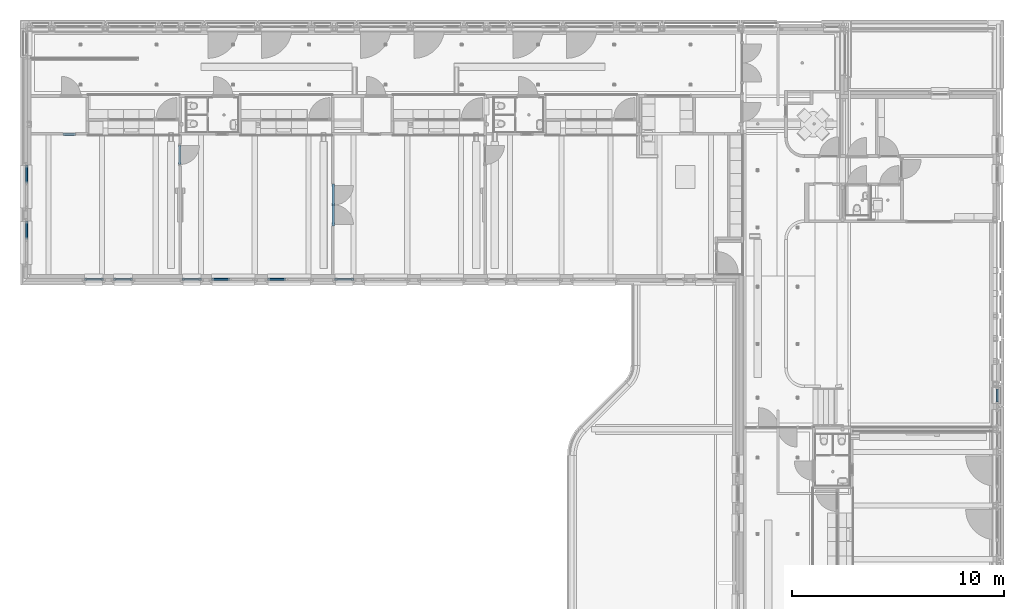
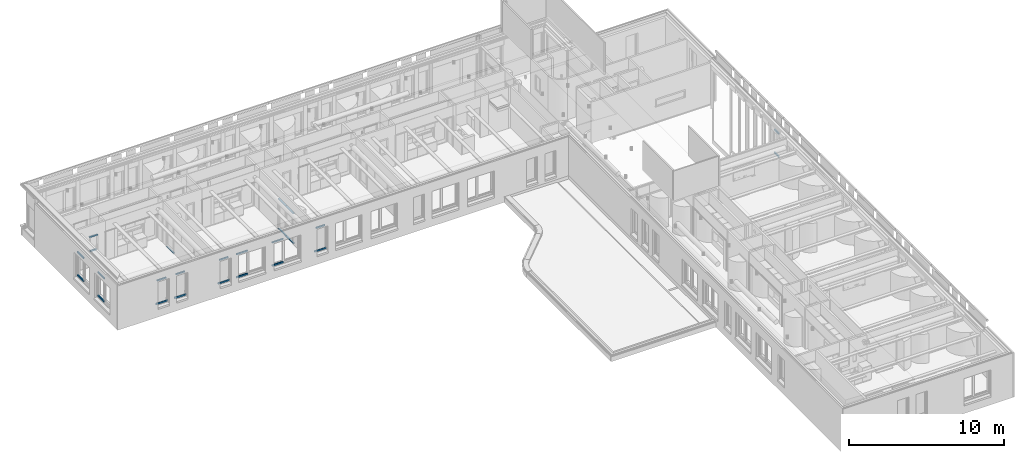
# One storey, part 27 of 128: 25 members, 12 elements without a shape of their own.
"""IFC2X3 building model written with IfcOpenShell, lengths in millimetres."""

from ifc_helpers import new_model, entity, si_unit, converted_unit, derived_unit, direction, frame, frame_2d, origin, origin_2d_with_axis, place, context, subcontext, project, spatial, rectangle, extrude, source, transform, mapped, material, type_object, type_shapes, element, aggregate, save


model = new_model("IFC2X3")

# Units and contexts
model_context = context("Model", 3, precision=0.01, world=origin(), true_north=direction((6.123031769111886e-17, 1.0)))
body_context = subcontext(model_context, "Body", "Model", "MODEL_VIEW")
ifc_project = project(units=[si_unit("LENGTHUNIT", "METRE", prefix="MILLI"), si_unit("AREAUNIT", "SQUARE_METRE"), si_unit("VOLUMEUNIT", "CUBIC_METRE"), converted_unit("PLANEANGLEUNIT", "DEGREE", entity("IfcRatioMeasure", 0.017453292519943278), si_unit("PLANEANGLEUNIT", "RADIAN"), dimensions=[0, 0, 0, 0, 0, 0, 0]), si_unit("MASSUNIT", "GRAM", prefix="KILO"), derived_unit("MASSDENSITYUNIT", [(si_unit("MASSUNIT", "GRAM", prefix="KILO"), 1), (si_unit("LENGTHUNIT", "METRE"), -3)]), derived_unit("IONCONCENTRATIONUNIT", [(si_unit("MASSUNIT", "GRAM", prefix="KILO"), 1), (si_unit("LENGTHUNIT", "METRE"), -3)]), derived_unit("MOMENTOFINERTIAUNIT", [(si_unit("LENGTHUNIT", "METRE"), 4)]), si_unit("TIMEUNIT", "SECOND"), si_unit("FREQUENCYUNIT", "HERTZ"), si_unit("THERMODYNAMICTEMPERATUREUNIT", "DEGREE_CELSIUS"), derived_unit("THERMALTRANSMITTANCEUNIT", [(si_unit("MASSUNIT", "GRAM", prefix="KILO"), 1), (si_unit("THERMODYNAMICTEMPERATUREUNIT", "KELVIN"), -1), (si_unit("TIMEUNIT", "SECOND"), -3)]), derived_unit("THERMALCONDUCTANCEUNIT", [(si_unit("MASSUNIT", "GRAM", prefix="KILO"), 1), (si_unit("THERMODYNAMICTEMPERATUREUNIT", "KELVIN"), -1), (si_unit("TIMEUNIT", "SECOND"), -3), (si_unit("LENGTHUNIT", "METRE"), 1)]), derived_unit("VOLUMETRICFLOWRATEUNIT", [(si_unit("LENGTHUNIT", "METRE"), 3), (si_unit("TIMEUNIT", "SECOND"), -1)]), derived_unit("MASSFLOWRATEUNIT", [(si_unit("MASSUNIT", "GRAM", prefix="KILO"), 1), (si_unit("TIMEUNIT", "SECOND"), -1)]), derived_unit("ROTATIONALFREQUENCYUNIT", [(si_unit("TIMEUNIT", "SECOND"), -1)]), si_unit("ELECTRICCURRENTUNIT", "AMPERE"), si_unit("ELECTRICVOLTAGEUNIT", "VOLT"), si_unit("POWERUNIT", "WATT"), si_unit("FORCEUNIT", "NEWTON", prefix="KILO"), si_unit("ILLUMINANCEUNIT", "LUX"), si_unit("LUMINOUSFLUXUNIT", "LUMEN"), si_unit("LUMINOUSINTENSITYUNIT", "CANDELA"), derived_unit("USERDEFINED", [(si_unit("MASSUNIT", "GRAM", prefix="KILO"), -1), (si_unit("LENGTHUNIT", "METRE"), -2), (si_unit("TIMEUNIT", "SECOND"), 3), (si_unit("LUMINOUSFLUXUNIT", "LUMEN"), 1)]), derived_unit("USERDEFINED", [(si_unit("MASSUNIT", "GRAM", prefix="KILO"), 1), (si_unit("TIMEUNIT", "SECOND"), -3), (si_unit("LENGTHUNIT", "METRE"), 3), (si_unit("ELECTRICCURRENTUNIT", "AMPERE"), -2)]), derived_unit("SOUNDPOWERUNIT", [(si_unit("MASSUNIT", "GRAM", prefix="KILO"), 1), (si_unit("TIMEUNIT", "SECOND"), -3), (si_unit("LENGTHUNIT", "METRE"), 2)]), derived_unit("SOUNDPRESSUREUNIT", [(si_unit("MASSUNIT", "GRAM", prefix="KILO"), 1), (si_unit("LENGTHUNIT", "METRE"), -1), (si_unit("TIMEUNIT", "SECOND"), -2)]), derived_unit("LINEARVELOCITYUNIT", [(si_unit("LENGTHUNIT", "METRE"), 1), (si_unit("TIMEUNIT", "SECOND"), -1)]), si_unit("PRESSUREUNIT", "PASCAL"), derived_unit("USERDEFINED", [(si_unit("MASSUNIT", "GRAM", prefix="KILO"), 1), (si_unit("LENGTHUNIT", "METRE"), -2), (si_unit("TIMEUNIT", "SECOND"), -2)]), derived_unit("LINEARFORCEUNIT", [(si_unit("MASSUNIT", "GRAM", prefix="KILO"), 1), (si_unit("TIMEUNIT", "SECOND"), -2)]), derived_unit("PLANARFORCEUNIT", [(si_unit("MASSUNIT", "GRAM", prefix="KILO"), 1), (si_unit("LENGTHUNIT", "METRE"), -1), (si_unit("TIMEUNIT", "SECOND"), -2)]), derived_unit("SPECIFICHEATCAPACITYUNIT", [(si_unit("THERMODYNAMICTEMPERATUREUNIT", "KELVIN"), -1), (si_unit("LENGTHUNIT", "METRE"), 2), (si_unit("TIMEUNIT", "SECOND"), -2)]), derived_unit("HEATINGVALUEUNIT", [(si_unit("LENGTHUNIT", "METRE"), 2), (si_unit("TIMEUNIT", "SECOND"), -2)]), derived_unit("VAPORPERMEABILITYUNIT", [(si_unit("LENGTHUNIT", "METRE"), -1), (si_unit("TIMEUNIT", "SECOND"), 1)]), derived_unit("DYNAMICVISCOSITYUNIT", [(si_unit("MASSUNIT", "GRAM", prefix="KILO"), 1), (si_unit("TIMEUNIT", "SECOND"), -1), (si_unit("LENGTHUNIT", "METRE"), -1)]), derived_unit("THERMALEXPANSIONCOEFFICIENTUNIT", [(si_unit("THERMODYNAMICTEMPERATUREUNIT", "KELVIN"), -1)]), derived_unit("MODULUSOFELASTICITYUNIT", [(si_unit("MASSUNIT", "GRAM", prefix="KILO"), 1), (si_unit("LENGTHUNIT", "METRE"), -1), (si_unit("TIMEUNIT", "SECOND"), -2)]), derived_unit("ISOTHERMALMOISTURECAPACITYUNIT", [(si_unit("LENGTHUNIT", "METRE"), 3), (si_unit("MASSUNIT", "GRAM", prefix="KILO"), -1)]), derived_unit("MOISTUREDIFFUSIVITYUNIT", [(si_unit("TIMEUNIT", "SECOND"), -1), (si_unit("LENGTHUNIT", "METRE"), 2)])], contexts=[model_context])

# Site, building, storey
site_placement = place(None, frame((0.0, 300.0, 0.0)))
site = spatial("IfcSite", under=ifc_project, at=site_placement, Name="<Kadastrale nummers>", CompositionType="ELEMENT")
building_placement = place(site_placement, origin())
building = spatial("IfcBuilding", under=site, at=building_placement, CompositionType="ELEMENT")
storey_placement = place(building_placement, frame((0.0, 0.0, 3560.0000331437)))
storey = spatial("IfcBuildingStorey", under=building, at=storey_placement, Name="01 eerste verdieping", CompositionType="ELEMENT", Elevation=3560.0000331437)

# Curtain wall, member
curtain_wall_type_1 = type_object("IfcCurtainWallType", Name="Curtain Wall:Merk H16", PredefinedType="NOTDEFINED")
curtain_wall_1_placement = place(storey_placement, frame((0.0, 0.0, -3560.0000331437)))
curtain_wall_1 = element("IfcCurtainWall", 1, at=curtain_wall_1_placement, inside=storey, type_object=curtain_wall_type_1, Name="Curtain Wall:Merk H16", ObjectType="Curtain Wall:Merk H16")
ifc_material_1 = material(Name="ISR_Kunststof_grijs")
member_type_1 = type_object("IfcMemberType", Name="Rectangular Mullion:31_CWM_020x114", PredefinedType="MULLION", material=ifc_material_1)
shared_shape_1 = source(origin(), body_context, "Body", "SweptSolid", [
    extrude(rectangle(XDim=113.99999999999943, YDim=20.0, at=origin_2d_with_axis()), frame((-10.0, 57.0, -900.0), z_axis=(0.0, 0.0, 1.0), x_axis=(0.0, -1.0, 0.0)), (0.0, 0.0, 1.0), 899.999999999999),
])
type_shapes(member_type_1, [shared_shape_1])
member_1_placement = place(curtain_wall_1_placement, frame((10060.0, 43408.0, 3650.000035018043), z_axis=(0.0, -1.0, 0.0), x_axis=(0.0, 0.0, -1.0)))
member_1 = element("IfcMember", 2, at=member_1_placement, type_object=member_type_1, material=ifc_material_1, Name="Rectangular Mullion:31_CWM_020x114", ObjectType="Rectangular Mullion:31_CWM_020x114", context=body_context, shape_type="MappedRepresentation", body=[
    mapped(shared_shape_1, transform((0.0, 0.0, 0.0), scale=1.0)),
])
aggregate(curtain_wall_1, [member_1])

# Curtain wall, members
curtain_wall_type_2 = type_object("IfcCurtainWallType", Name="Curtain Wall:Merk H07", PredefinedType="NOTDEFINED")
curtain_wall_2_placement = place(storey_placement, frame((0.0, 0.0, -3560.0000331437)))
curtain_wall_2 = element("IfcCurtainWall", 3, at=curtain_wall_2_placement, inside=storey, type_object=curtain_wall_type_2, Name="Curtain Wall:Merk H07", ObjectType="Curtain Wall:Merk H07")
ifc_material_2 = material(Name="ISR_HPL")
member_type_2 = type_object("IfcMemberType", Name="Rectangular Mullion:31_CWM_067x114", PredefinedType="MULLION", material=ifc_material_2)
shared_shape_2 = source(origin(), body_context, "Body", "SweptSolid", [
    extrude(rectangle(XDim=113.99999999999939, YDim=67.0, at=origin_2d_with_axis()), frame((-33.5, 57.0, -990.0), z_axis=(0.0, 0.0, 1.0), x_axis=(0.0, -1.0, 0.0)), (0.0, 0.0, 1.0), 989.9999999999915),
])
type_shapes(member_type_2, [shared_shape_2])
member_2_placement = place(curtain_wall_2_placement, frame((17306.0, 42485.0, 6040.0000331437), z_axis=(0.0, 1.0, 0.0), x_axis=(0.0, 0.0, 1.0)))
member_2 = element("IfcMember", 4, at=member_2_placement, type_object=member_type_2, material=ifc_material_2, Name="Rectangular Mullion:31_CWM_067x114", ObjectType="Rectangular Mullion:31_CWM_067x114", context=body_context, shape_type="MappedRepresentation", body=[
    mapped(shared_shape_2, transform((0.0, 0.0, 0.0), scale=1.0)),
])
member_type_3 = type_object("IfcMemberType", Name="Rectangular Mullion:31_CWM_020x114", PredefinedType="MULLION", material=ifc_material_1)
shared_shape_3 = source(origin(), body_context, "Body", "SweptSolid", [
    extrude(rectangle(XDim=113.99999999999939, YDim=20.0, at=origin_2d_with_axis()), frame((-10.0, 57.0, -990.0), z_axis=(0.0, 0.0, 1.0), x_axis=(0.0, -1.0, 0.0)), (0.0, 0.0, 1.0), 990.0000000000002),
])
type_shapes(member_type_3, [shared_shape_3])
member_3_placement = place(curtain_wall_2_placement, frame((17306.0, 40505.0, 3650.000035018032), z_axis=(0.0, -1.0, 0.0), x_axis=(0.0, 0.0, -1.0)))
member_3 = element("IfcMember", 5, at=member_3_placement, type_object=member_type_3, material=ifc_material_1, Name="Rectangular Mullion:31_CWM_020x114", ObjectType="Rectangular Mullion:31_CWM_020x114", context=body_context, shape_type="MappedRepresentation", body=[
    mapped(shared_shape_3, transform((0.0, 0.0, 0.0), scale=1.0)),
])
member_type_4 = type_object("IfcMemberType", Name="Rectangular Mullion:31_CWM_067x114", PredefinedType="MULLION", material=ifc_material_2)
shared_shape_4 = source(origin(), body_context, "Body", "SweptSolid", [
    extrude(rectangle(XDim=113.99999999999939, YDim=67.0, at=origin_2d_with_axis()), frame((-33.5, 57.0, -990.0), z_axis=(0.0, 0.0, 1.0), x_axis=(0.0, -1.0, 0.0)), (0.0, 0.0, 1.0), 989.9999999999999),
])
type_shapes(member_type_4, [shared_shape_4])
member_4_placement = place(curtain_wall_2_placement, frame((17306.0, 41495.0, 6040.0000331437), z_axis=(0.0, 1.0, 0.0), x_axis=(0.0, 0.0, 1.0)))
member_4 = element("IfcMember", 6, at=member_4_placement, type_object=member_type_4, material=ifc_material_2, Name="Rectangular Mullion:31_CWM_067x114", ObjectType="Rectangular Mullion:31_CWM_067x114", context=body_context, shape_type="MappedRepresentation", body=[
    mapped(shared_shape_4, transform((0.0, 0.0, 0.0), scale=1.0)),
])
member_type_5 = type_object("IfcMemberType", Name="Rectangular Mullion:31_CWM_020x114", PredefinedType="MULLION", material=ifc_material_1)
shared_shape_5 = source(origin(), body_context, "Body", "SweptSolid", [
    extrude(rectangle(XDim=113.99999999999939, YDim=20.0, at=origin_2d_with_axis()), frame((-10.0, 57.0, -990.0), z_axis=(0.0, 0.0, 1.0), x_axis=(0.0, -1.0, 0.0)), (0.0, 0.0, 1.0), 989.9999999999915),
])
type_shapes(member_type_5, [shared_shape_5])
member_5_placement = place(curtain_wall_2_placement, frame((17306.0, 41495.0, 3650.000035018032), z_axis=(0.0, -1.0, 0.0), x_axis=(0.0, 0.0, -1.0)))
member_5 = element("IfcMember", 7, at=member_5_placement, type_object=member_type_5, material=ifc_material_1, Name="Rectangular Mullion:31_CWM_020x114", ObjectType="Rectangular Mullion:31_CWM_020x114", context=body_context, shape_type="MappedRepresentation", body=[
    mapped(shared_shape_5, transform((0.0, 0.0, 0.0), scale=1.0)),
])
aggregate(curtain_wall_2, [member_2, member_3, member_4, member_5])

curtain_wall_type_3 = type_object("IfcCurtainWallType", Name="Curtain Wall:Merk H05", PredefinedType="NOTDEFINED")
curtain_wall_3_placement = place(storey_placement, frame((0.0, 0.0, -3560.0000331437)))
curtain_wall_3 = element("IfcCurtainWall", 8, at=curtain_wall_3_placement, inside=storey, type_object=curtain_wall_type_3, Name="Curtain Wall:Merk H05", ObjectType="Curtain Wall:Merk H05")
member_type_6 = type_object("IfcMemberType", Name="Rectangular Mullion:31_CWM_067x114", PredefinedType="MULLION", material=ifc_material_2)
shared_shape_6 = source(origin(), body_context, "Body", "SweptSolid", [
    extrude(rectangle(XDim=113.9999999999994, YDim=67.0, at=frame_2d((1.0658141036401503e-14, 0.0), x_axis=(1.0, 0.0))), frame((-33.5, -57.0, -600.0), z_axis=(0.0, 0.0, 1.0), x_axis=(0.0, -1.0, 0.0)), (0.0, 0.0, 1.0), 600.0000000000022),
])
type_shapes(member_type_6, [shared_shape_6])
member_6_placement = place(curtain_wall_3_placement, frame((4605.0, 44889.0, 6040.0000331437), z_axis=(-1.0, 0.0, 0.0), x_axis=(0.0, 0.0, 1.0)))
member_6 = element("IfcMember", 9, at=member_6_placement, type_object=member_type_6, material=ifc_material_2, Name="Rectangular Mullion:31_CWM_067x114", ObjectType="Rectangular Mullion:31_CWM_067x114", context=body_context, shape_type="MappedRepresentation", body=[
    mapped(shared_shape_6, transform((0.0, 0.0, 0.0), scale=1.0)),
])
member_type_7 = type_object("IfcMemberType", Name="Rectangular Mullion:31_CWM_067x114", PredefinedType="MULLION", material=ifc_material_2)
shared_shape_7 = source(origin(), body_context, "Body", "SweptSolid", [
    extrude(rectangle(XDim=113.9999999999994, YDim=67.0, at=frame_2d((1.0658141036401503e-14, 0.0), x_axis=(1.0, 0.0))), frame((-33.5, -57.0, -466.0), z_axis=(0.0, 0.0, 1.0), x_axis=(0.0, -1.0, 0.0)), (0.0, 0.0, 1.0), 466.0000000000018),
])
type_shapes(member_type_7, [shared_shape_7])
member_7_placement = place(curtain_wall_3_placement, frame((5138.0, 44889.0, 4850.0000331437), z_axis=(1.0, 0.0, 0.0), x_axis=(0.0, 0.0, -1.0)))
member_7 = element("IfcMember", 10, at=member_7_placement, type_object=member_type_7, material=ifc_material_2, Name="Rectangular Mullion:31_CWM_067x114", ObjectType="Rectangular Mullion:31_CWM_067x114", context=body_context, shape_type="MappedRepresentation", body=[
    mapped(shared_shape_7, transform((0.0, 0.0, 0.0), scale=1.0)),
])
aggregate(curtain_wall_3, [member_6, member_7])

curtain_wall_type_4 = type_object("IfcCurtainWallType", Name="Curtain Wall:K_29", PredefinedType="NOTDEFINED")
curtain_wall_4_placement = place(storey_placement, frame((0.0, 0.0, -3560.0000331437)))
curtain_wall_4 = element("IfcCurtainWall", 11, at=curtain_wall_4_placement, inside=storey, type_object=curtain_wall_type_4, Name="Curtain Wall:K_29", ObjectType="Curtain Wall:K_29")
ifc_material_3 = material(Name="ISR_Kunststof_RAL7006")
member_type_8 = type_object("IfcMemberType", Name="Rectangular Mullion:100x83 Gealan Kubus", PredefinedType="MULLION", material=ifc_material_3)
shared_shape_8 = source(origin(), body_context, "Body", "SweptSolid", [
    extrude(rectangle(XDim=83.0, YDim=100.0, at=origin_2d_with_axis()), frame((-50.0, 41.5, -590.0), z_axis=(0.0, 0.0, 1.0), x_axis=(0.0, -1.0, 0.0)), (0.0, 0.0, 1.0), 590.0000000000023),
])
type_shapes(member_type_8, [shared_shape_8])
member_8_placement = place(curtain_wall_4_placement, frame((48668.0, 32800.0, 6390.0), z_axis=(0.0, 1.0, 0.0), x_axis=(0.0, 0.0, 1.0)))
member_8 = element("IfcMember", 12, at=member_8_placement, type_object=member_type_8, material=ifc_material_3, Name="Rectangular Mullion:100x83 Gealan Kubus", ObjectType="Rectangular Mullion:100x83 Gealan Kubus", context=body_context, shape_type="MappedRepresentation", body=[
    mapped(shared_shape_8, transform((0.0, 0.0, 0.0), scale=1.0)),
])
member_type_9 = type_object("IfcMemberType", Name="Rectangular Mullion:120x83 Gealan Kubus", PredefinedType="MULLION", material=ifc_material_3)
shared_shape_9 = source(origin(), body_context, "Body", "SweptSolid", [
    extrude(rectangle(XDim=83.00000000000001, YDim=120.0, at=origin_2d_with_axis()), frame((-60.0, 41.50000000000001, -590.0), z_axis=(0.0, 0.0, 1.0), x_axis=(0.0, -1.0, 0.0)), (0.0, 0.0, 1.0), 590.0000000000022),
])
type_shapes(member_type_9, [shared_shape_9])
member_9_placement = place(curtain_wall_4_placement, frame((48668.0, 32210.0, 4460.000035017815), z_axis=(0.0, -1.0, 0.0), x_axis=(0.0, 0.0, -1.0)))
member_9 = element("IfcMember", 13, at=member_9_placement, type_object=member_type_9, material=ifc_material_3, Name="Rectangular Mullion:120x83 Gealan Kubus", ObjectType="Rectangular Mullion:120x83 Gealan Kubus", context=body_context, shape_type="MappedRepresentation", body=[
    mapped(shared_shape_9, transform((0.0, 0.0, 0.0), scale=1.0)),
])
aggregate(curtain_wall_4, [member_8, member_9])

# Curtain wall, member
curtain_wall_type_5 = type_object("IfcCurtainWallType", Name="Curtain Wall:K_24", PredefinedType="NOTDEFINED")
curtain_wall_5_placement = place(storey_placement, frame((0.0, 0.0, -3560.0000331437)))
curtain_wall_5 = element("IfcCurtainWall", 14, at=curtain_wall_5_placement, inside=storey, type_object=curtain_wall_type_5, Name="Curtain Wall:K_24", ObjectType="Curtain Wall:K_24")
member_type_10 = type_object("IfcMemberType", Name="Rectangular Mullion:120x83 Gealan Kubus", PredefinedType="MULLION", material=ifc_material_3)
shared_shape_10 = source(origin(), body_context, "Body", "SweptSolid", [
    extrude(rectangle(XDim=83.00000000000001, YDim=120.0, at=origin_2d_with_axis()), frame((-60.0, 41.50000000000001, -857.0), z_axis=(0.0, 0.0, 1.0), x_axis=(0.0, -1.0, 0.0)), (0.0, 0.0, 1.0), 857.0),
])
type_shapes(member_type_10, [shared_shape_10])
member_10_placement = place(curtain_wall_5_placement, frame((14270.0, 38031.998623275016, 4460.000035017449), z_axis=(-1.0, 0.0, 0.0), x_axis=(0.0, 0.0, -1.0)))
member_10 = element("IfcMember", 15, at=member_10_placement, type_object=member_type_10, material=ifc_material_3, Name="Rectangular Mullion:120x83 Gealan Kubus", ObjectType="Rectangular Mullion:120x83 Gealan Kubus", context=body_context, shape_type="MappedRepresentation", body=[
    mapped(shared_shape_10, transform((0.0, 0.0, 0.0), scale=1.0)),
])

curtain_wall_6_placement = place(storey_placement, frame((0.0, 0.0, -3560.0000331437)))
curtain_wall_6 = element("IfcCurtainWall", 16, at=curtain_wall_6_placement, inside=storey, type_object=curtain_wall_type_5, Name="Curtain Wall:K_24", ObjectType="Curtain Wall:K_24")
member_11_placement = place(curtain_wall_6_placement, frame((11620.0, 38031.99862327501, 4460.000035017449), z_axis=(-1.0, 0.0, 0.0), x_axis=(0.0, 0.0, -1.0)))
member_11 = element("IfcMember", 17, at=member_11_placement, type_object=member_type_10, material=ifc_material_3, Name="Rectangular Mullion:120x83 Gealan Kubus", ObjectType="Rectangular Mullion:120x83 Gealan Kubus", context=body_context, shape_type="MappedRepresentation", body=[
    mapped(shared_shape_10, transform((0.0, 0.0, 0.0), scale=1.0)),
])

curtain_wall_7_placement = place(storey_placement, frame((0.0, 0.0, -3560.0000331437)))
curtain_wall_7 = element("IfcCurtainWall", 18, at=curtain_wall_7_placement, inside=storey, type_object=curtain_wall_type_5, Name="Curtain Wall:K_24", ObjectType="Curtain Wall:K_24")
member_12_placement = place(curtain_wall_7_placement, frame((2931.9986232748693, 40725.0, 4460.000035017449), z_axis=(0.0, 1.0, 0.0), x_axis=(0.0, 0.0, -1.0)))
member_12 = element("IfcMember", 19, at=member_12_placement, type_object=member_type_10, material=ifc_material_3, Name="Rectangular Mullion:120x83 Gealan Kubus", ObjectType="Rectangular Mullion:120x83 Gealan Kubus", context=body_context, shape_type="MappedRepresentation", body=[
    mapped(shared_shape_10, transform((0.0, 0.0, 0.0), scale=1.0)),
])

curtain_wall_8_placement = place(storey_placement, frame((0.0, 0.0, -3560.0000331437)))
curtain_wall_8 = element("IfcCurtainWall", 20, at=curtain_wall_8_placement, inside=storey, type_object=curtain_wall_type_5, Name="Curtain Wall:K_24", ObjectType="Curtain Wall:K_24")
member_13_placement = place(curtain_wall_8_placement, frame((2931.9986232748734, 43375.0, 4460.000035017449), z_axis=(0.0, 1.0, 0.0), x_axis=(0.0, 0.0, -1.0)))
member_13 = element("IfcMember", 21, at=member_13_placement, type_object=member_type_10, material=ifc_material_3, Name="Rectangular Mullion:120x83 Gealan Kubus", ObjectType="Rectangular Mullion:120x83 Gealan Kubus", context=body_context, shape_type="MappedRepresentation", body=[
    mapped(shared_shape_10, transform((0.0, 0.0, 0.0), scale=1.0)),
])

# Member
member_type_11 = type_object("IfcMemberType", Name="Rectangular Mullion:100x83 Gealan Kubus", PredefinedType="MULLION", material=ifc_material_3)
shared_shape_11 = source(origin(), body_context, "Body", "SweptSolid", [
    extrude(rectangle(XDim=83.0, YDim=100.0, at=origin_2d_with_axis()), frame((-50.0, 41.5, -857.0), z_axis=(0.0, 0.0, 1.0), x_axis=(0.0, -1.0, 0.0)), (0.0, 0.0, 1.0), 857.0000000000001),
])
type_shapes(member_type_11, [shared_shape_11])
member_14_placement = place(curtain_wall_5_placement, frame((15127.0, 38031.998623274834, 6390.000035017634), z_axis=(1.0, 0.0, 0.0), x_axis=(0.0, 0.0, 1.0)))
member_14 = element("IfcMember", 22, at=member_14_placement, type_object=member_type_11, material=ifc_material_3, Name="Rectangular Mullion:100x83 Gealan Kubus", ObjectType="Rectangular Mullion:100x83 Gealan Kubus", context=body_context, shape_type="MappedRepresentation", body=[
    mapped(shared_shape_11, transform((0.0, 0.0, 0.0), scale=1.0)),
])

aggregate(curtain_wall_5, [member_10, member_14])

member_15_placement = place(curtain_wall_6_placement, frame((12477.0, 38031.99862327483, 6390.000035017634), z_axis=(1.0, 0.0, 0.0), x_axis=(0.0, 0.0, 1.0)))
member_15 = element("IfcMember", 23, at=member_15_placement, type_object=member_type_11, material=ifc_material_3, Name="Rectangular Mullion:100x83 Gealan Kubus", ObjectType="Rectangular Mullion:100x83 Gealan Kubus", context=body_context, shape_type="MappedRepresentation", body=[
    mapped(shared_shape_11, transform((0.0, 0.0, 0.0), scale=1.0)),
])

aggregate(curtain_wall_6, [member_11, member_15])

member_16_placement = place(curtain_wall_7_placement, frame((2931.998623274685, 39868.0, 6390.000035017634), z_axis=(0.0, -1.0, 0.0), x_axis=(0.0, 0.0, 1.0)))
member_16 = element("IfcMember", 24, at=member_16_placement, type_object=member_type_11, material=ifc_material_3, Name="Rectangular Mullion:100x83 Gealan Kubus", ObjectType="Rectangular Mullion:100x83 Gealan Kubus", context=body_context, shape_type="MappedRepresentation", body=[
    mapped(shared_shape_11, transform((0.0, 0.0, 0.0), scale=1.0)),
])

aggregate(curtain_wall_7, [member_12, member_16])

member_17_placement = place(curtain_wall_8_placement, frame((2931.998623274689, 42518.0, 6390.000035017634), z_axis=(0.0, -1.0, 0.0), x_axis=(0.0, 0.0, 1.0)))
member_17 = element("IfcMember", 25, at=member_17_placement, type_object=member_type_11, material=ifc_material_3, Name="Rectangular Mullion:100x83 Gealan Kubus", ObjectType="Rectangular Mullion:100x83 Gealan Kubus", context=body_context, shape_type="MappedRepresentation", body=[
    mapped(shared_shape_11, transform((0.0, 0.0, 0.0), scale=1.0)),
])

aggregate(curtain_wall_8, [member_13, member_17])

# Curtain wall, member
curtain_wall_type_6 = type_object("IfcCurtainWallType", Name="Curtain Wall:K_28", PredefinedType="NOTDEFINED")
curtain_wall_9_placement = place(storey_placement, frame((0.0, 0.0, -3560.0000331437)))
curtain_wall_9 = element("IfcCurtainWall", 26, at=curtain_wall_9_placement, inside=storey, type_object=curtain_wall_type_6, Name="Curtain Wall:K_28", ObjectType="Curtain Wall:K_28")
member_type_12 = type_object("IfcMemberType", Name="Rectangular Mullion:100x83 Gealan Kubus", PredefinedType="MULLION", material=ifc_material_3)
shared_shape_12 = source(origin(), body_context, "Body", "SweptSolid", [
    extrude(rectangle(XDim=83.00000000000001, YDim=100.0, at=origin_2d_with_axis()), frame((-50.0, 41.50000000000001, -680.0), z_axis=(0.0, 0.0, 1.0), x_axis=(0.0, -1.0, 0.0)), (0.0, 0.0, 1.0), 679.9999999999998),
])
type_shapes(member_type_12, [shared_shape_12])
member_18_placement = place(curtain_wall_9_placement, frame((11020.0, 38032.0, 6390.00003501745), z_axis=(1.0, 0.0, 0.0), x_axis=(0.0, 0.0, 1.0)))
member_18 = element("IfcMember", 27, at=member_18_placement, type_object=member_type_12, material=ifc_material_3, Name="Rectangular Mullion:100x83 Gealan Kubus", ObjectType="Rectangular Mullion:100x83 Gealan Kubus", context=body_context, shape_type="MappedRepresentation", body=[
    mapped(shared_shape_12, transform((0.0, 0.0, 0.0), scale=1.0)),
])

curtain_wall_10_placement = place(storey_placement, frame((0.0, 0.0, -3560.0000331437)))
curtain_wall_10 = element("IfcCurtainWall", 28, at=curtain_wall_10_placement, inside=storey, type_object=curtain_wall_type_6, Name="Curtain Wall:K_28", ObjectType="Curtain Wall:K_28")
member_19_placement = place(curtain_wall_10_placement, frame((18220.0, 38032.0, 6390.00003501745), z_axis=(1.0, 0.0, 0.0), x_axis=(0.0, 0.0, 1.0)))
member_19 = element("IfcMember", 29, at=member_19_placement, type_object=member_type_12, material=ifc_material_3, Name="Rectangular Mullion:100x83 Gealan Kubus", ObjectType="Rectangular Mullion:100x83 Gealan Kubus", context=body_context, shape_type="MappedRepresentation", body=[
    mapped(shared_shape_12, transform((0.0, 0.0, 0.0), scale=1.0)),
])

curtain_wall_11_placement = place(storey_placement, frame((0.0, 0.0, -3560.0000331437)))
curtain_wall_11 = element("IfcCurtainWall", 30, at=curtain_wall_11_placement, inside=storey, type_object=curtain_wall_type_6, Name="Curtain Wall:K_28", ObjectType="Curtain Wall:K_28")
member_20_placement = place(curtain_wall_11_placement, frame((7780.0, 38032.0, 6390.00003501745), z_axis=(1.0, 0.0, 0.0), x_axis=(0.0, 0.0, 1.0)))
member_20 = element("IfcMember", 31, at=member_20_placement, type_object=member_type_12, material=ifc_material_3, Name="Rectangular Mullion:100x83 Gealan Kubus", ObjectType="Rectangular Mullion:100x83 Gealan Kubus", context=body_context, shape_type="MappedRepresentation", body=[
    mapped(shared_shape_12, transform((0.0, 0.0, 0.0), scale=1.0)),
])

curtain_wall_12_placement = place(storey_placement, frame((0.0, 0.0, -3560.0000331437)))
curtain_wall_12 = element("IfcCurtainWall", 32, at=curtain_wall_12_placement, inside=storey, type_object=curtain_wall_type_6, Name="Curtain Wall:K_28", ObjectType="Curtain Wall:K_28")
member_21_placement = place(curtain_wall_12_placement, frame((6400.0, 38032.0, 6390.00003501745), z_axis=(1.0, 0.0, 0.0), x_axis=(0.0, 0.0, 1.0)))
member_21 = element("IfcMember", 33, at=member_21_placement, type_object=member_type_12, material=ifc_material_3, Name="Rectangular Mullion:100x83 Gealan Kubus", ObjectType="Rectangular Mullion:100x83 Gealan Kubus", context=body_context, shape_type="MappedRepresentation", body=[
    mapped(shared_shape_12, transform((0.0, 0.0, 0.0), scale=1.0)),
])

# Member
member_type_13 = type_object("IfcMemberType", Name="Rectangular Mullion:120x83 Gealan Kubus", PredefinedType="MULLION", material=ifc_material_3)
shared_shape_13 = source(origin(), body_context, "Body", "SweptSolid", [
    extrude(rectangle(XDim=82.99999999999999, YDim=120.0, at=origin_2d_with_axis()), frame((-60.0, 41.49999999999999, -880.0), z_axis=(0.0, 0.0, 1.0), x_axis=(0.0, -1.0, 0.0)), (0.0, 0.0, 1.0), 879.9999999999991),
])
type_shapes(member_type_13, [shared_shape_13])
member_22_placement = place(curtain_wall_9_placement, frame((10240.0, 38032.0, 4460.000035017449), z_axis=(-1.0, 0.0, 0.0), x_axis=(0.0, 0.0, -1.0)))
member_22 = element("IfcMember", 34, at=member_22_placement, type_object=member_type_13, material=ifc_material_3, Name="Rectangular Mullion:120x83 Gealan Kubus", ObjectType="Rectangular Mullion:120x83 Gealan Kubus", context=body_context, shape_type="MappedRepresentation", body=[
    mapped(shared_shape_13, transform((0.0, 0.0, 0.0), scale=1.0)),
])

aggregate(curtain_wall_9, [member_18, member_22])

member_23_placement = place(curtain_wall_10_placement, frame((17440.0, 38032.0, 4460.000035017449), z_axis=(-1.0, 0.0, 0.0), x_axis=(0.0, 0.0, -1.0)))
member_23 = element("IfcMember", 35, at=member_23_placement, type_object=member_type_13, material=ifc_material_3, Name="Rectangular Mullion:120x83 Gealan Kubus", ObjectType="Rectangular Mullion:120x83 Gealan Kubus", context=body_context, shape_type="MappedRepresentation", body=[
    mapped(shared_shape_13, transform((0.0, 0.0, 0.0), scale=1.0)),
])

aggregate(curtain_wall_10, [member_19, member_23])

member_24_placement = place(curtain_wall_11_placement, frame((7000.0, 38032.0, 4460.000035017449), z_axis=(-1.0, 0.0, 0.0), x_axis=(0.0, 0.0, -1.0)))
member_24 = element("IfcMember", 36, at=member_24_placement, type_object=member_type_13, material=ifc_material_3, Name="Rectangular Mullion:120x83 Gealan Kubus", ObjectType="Rectangular Mullion:120x83 Gealan Kubus", context=body_context, shape_type="MappedRepresentation", body=[
    mapped(shared_shape_13, transform((0.0, 0.0, 0.0), scale=1.0)),
])

aggregate(curtain_wall_11, [member_20, member_24])

member_25_placement = place(curtain_wall_12_placement, frame((5620.0, 38032.0, 4460.000035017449), z_axis=(-1.0, 0.0, 0.0), x_axis=(0.0, 0.0, -1.0)))
member_25 = element("IfcMember", 37, at=member_25_placement, type_object=member_type_13, material=ifc_material_3, Name="Rectangular Mullion:120x83 Gealan Kubus", ObjectType="Rectangular Mullion:120x83 Gealan Kubus", context=body_context, shape_type="MappedRepresentation", body=[
    mapped(shared_shape_13, transform((0.0, 0.0, 0.0), scale=1.0)),
])

aggregate(curtain_wall_12, [member_21, member_25])

save(model, "model.ifc")
